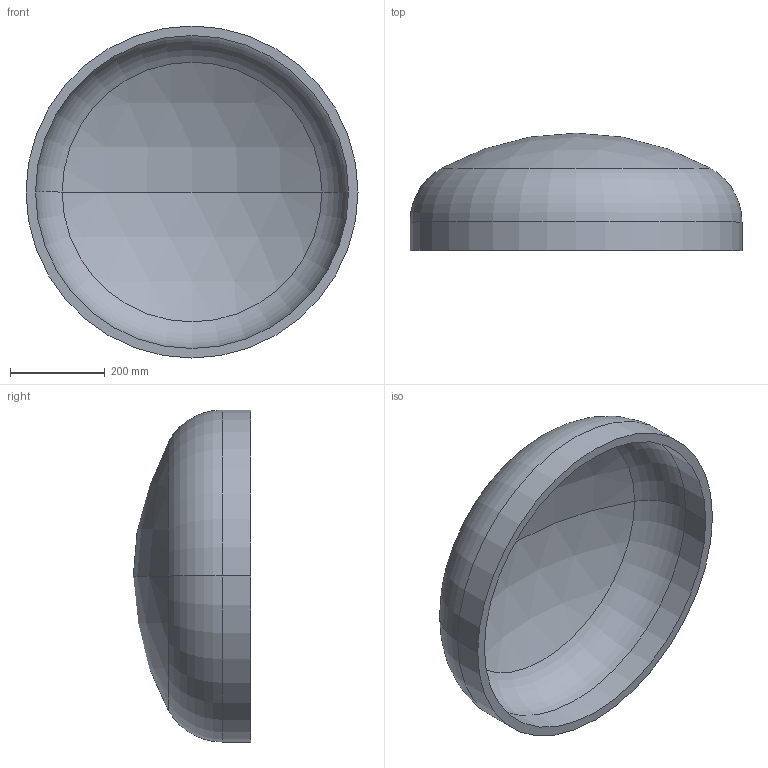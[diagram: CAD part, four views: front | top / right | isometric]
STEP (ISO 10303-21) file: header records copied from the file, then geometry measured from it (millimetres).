
FILE_DESCRIPTION (( 'STEP AP203' ), '1' );
FILE_NAME ('DIN 28013 Korbbogenform_-_Boden DIN 28013 - 700 x 60 - I - s=20.step', '2016-07-01T08:05:14', ( '' ), ( '' ), 'SwSTEP 2.0', 'SolidWorks 2013', '' );
FILE_SCHEMA (( 'CONFIG_CONTROL_DESIGN' ));
Length unit declared in the file: millimetre
Products named in the file (1): DIN 28013 Korbbogenform_-_Boden DIN 28013 - 700 x 60 - I - s=20
Bounding box: 700 x 247.44 x 700 mm (x, y, z)
Volume: 12874665.9 mm3; surface area: 1331029.6 mm2
Topology: 1 solids, 1 shells, 13 faces, 24 edges, 14 vertices
Faces by surface type: torus 4, cylinder 4, sphere 4, plane 1
Entity records: 407 total; most frequent: DIRECTION 72, CARTESIAN_POINT 52, ORIENTED_EDGE 48, AXIS2_PLACEMENT_3D 34, EDGE_CURVE 24, CIRCLE 20, EDGE_LOOP 14, VERTEX_POINT 14
